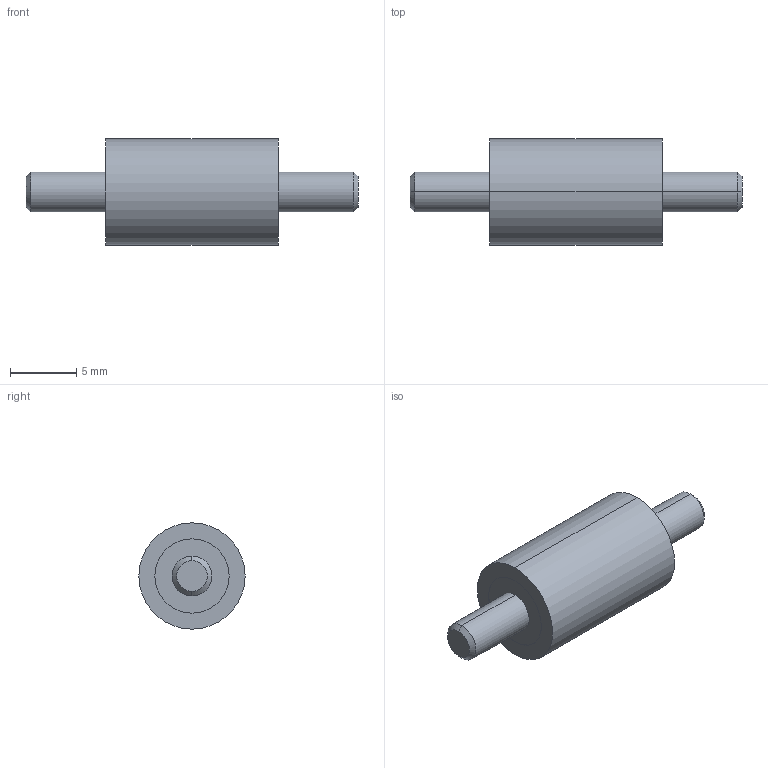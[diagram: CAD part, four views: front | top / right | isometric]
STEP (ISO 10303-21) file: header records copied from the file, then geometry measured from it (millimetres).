
FILE_DESCRIPTION (( 'STEP AP214' ), '1' );
FILE_NAME ('351-8-13-M3-SS-70.step', '2025-07-23T09:44:19', ( '' ), ( '' ), 'SwSTEP 2.0', 'SolidWorks 2022', '' );
FILE_SCHEMA (( 'AUTOMOTIVE_DESIGN' ));
Length unit declared in the file: millimetre
Products named in the file (1): 351-8-13-M3-SS-70
Bounding box: 25 x 8 x 8 mm (x, y, z)
Volume: 736.9 mm3; surface area: 536.7 mm2
Topology: 1 solids, 1 shells, 20 faces, 38 edges, 24 vertices
Faces by surface type: cylinder 10, plane 6, cone 4
Entity records: 636 total; most frequent: DIRECTION 104, CARTESIAN_POINT 83, ORIENTED_EDGE 76, AXIS2_PLACEMENT_3D 45, EDGE_CURVE 38, EDGE_LOOP 24, CIRCLE 24, VERTEX_POINT 24
